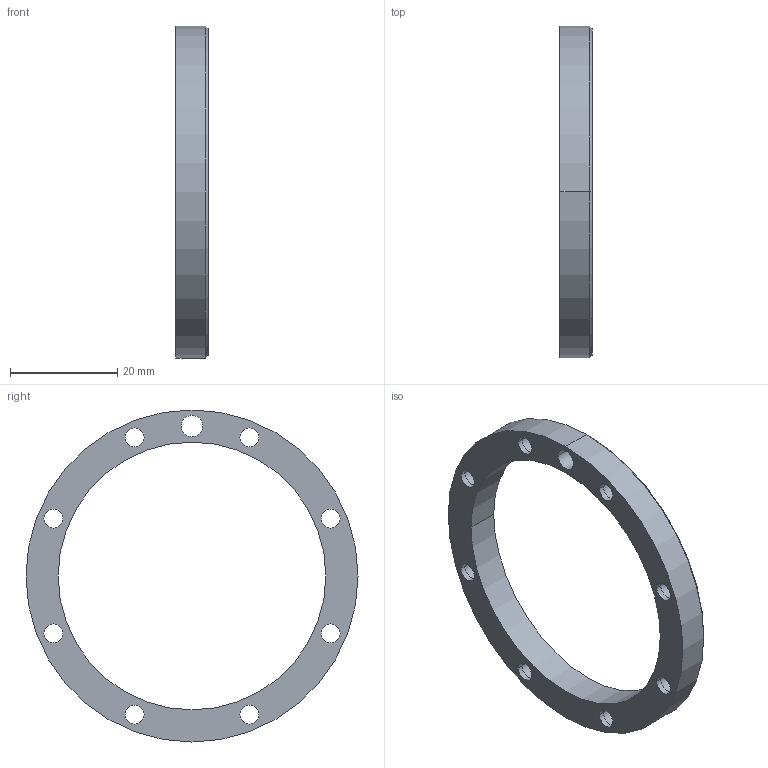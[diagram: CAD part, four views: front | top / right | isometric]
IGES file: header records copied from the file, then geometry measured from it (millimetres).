
Start section:  PTC IGES file: t_axis.igs
Global section: file name: t_axis.igs; native system: Creo Parametric by Parametric Technology Corporation; preprocessor: 2014000; author: Miyoshi_Nozomi; organization: Unknown; date: 20170720.143200; units: millimetre
Bounding box: 6 x 62 x 62 mm (x, y, z)
Volume: 5760.1 mm3; surface area: 5116.1 mm2
Topology: 1 solids, 9 shells, 50 faces, 134 edges, 94 vertices
Faces by surface type: revolution 40, bspline 10
